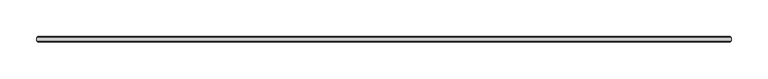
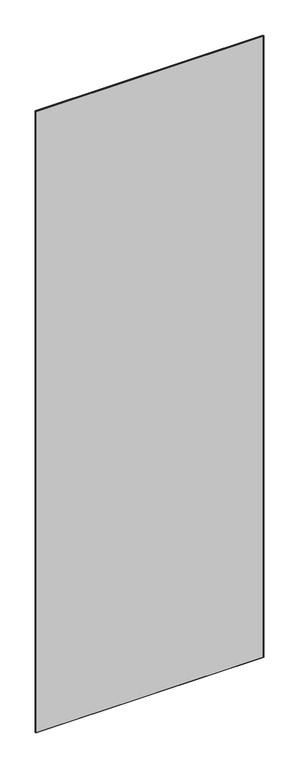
"""IFC4 building model written with IfcOpenShell, lengths in millimetres: plate geometry, 1-AMG-1-Панель одинарный витраж 8, 10 : Смещение 32 Толщина 8mm."""

from ifc_helpers import new_model, si_unit, origin, place, context, project, spatial, faceted_brep, source, transform, mapped, element, save


def plate_32b2aec6(model_context):
    return source(origin(), model_context, "Body", "Brep", [
        faceted_brep([(476.6184164, 29.5038347, 2722.8), (476.6184164, 34.4961653, 2722.8), (-471.6184164, 34.4961653, 2722.8), (-471.6184164, 29.5038347, 2722.8), (476.6184164, 34.4961653, -7.0), (476.6184164, 29.5038347, -7.0), (-471.6184164, 29.5038347, -7.0), (-471.6184164, 34.4961653, -7.0), (-470.1145817, 36.0, 2721.2961653), (475.1145817, 36.0, 2721.2961653), (475.1145817, 36.0, -5.5039422), (-470.1145817, 36.0, -5.5039422), (475.1145817, 28.0, 2721.2961653), (-470.1145817, 28.0, 2721.2961653), (-470.1145817, 28.0, -5.4961653), (475.1145817, 28.0, -5.4961653)], [[[0, 1, 2, 3]], [[4, 5, 6, 7]], [[8, 9, 10, 11]], [[3, 2, 7, 6]], [[12, 13, 14, 15]], [[1, 0, 5, 4]], [[1, 4, 10, 9]], [[5, 0, 12, 15]], [[7, 2, 8, 11]], [[3, 6, 14, 13]], [[0, 3, 13, 12]], [[2, 1, 9, 8]], [[6, 5, 15, 14]], [[4, 7, 11, 10]]]),
    ])


if __name__ == "__main__":
    model = new_model("IFC4")
    model_context = context("Model", 3, world=origin())
    ifc_project = project(units=[si_unit("LENGTHUNIT", "METRE", prefix="MILLI")], contexts=[model_context])
    site = spatial("IfcSite", under=ifc_project)
    building = spatial("IfcBuilding", under=site)
    placement = place(None, origin())
    plate_shape = plate_32b2aec6(model_context)
    element("IfcPlate", 1, ObjectType="1-AMG-1-Панель одинарный витраж 8, 10 : Смещение 32 Толщина 8mm", at=placement, inside=building, context=model_context, shape_type="MappedRepresentation", body=[
        mapped(plate_shape, transform((0.0, 0.0, 0.0), x_axis=(1.0, 0.0, 0.0), y_axis=(0.0, 1.0, 0.0), z_axis=(0.0, 0.0, 1.0))),
    ])
    save(model, "model.ifc")
